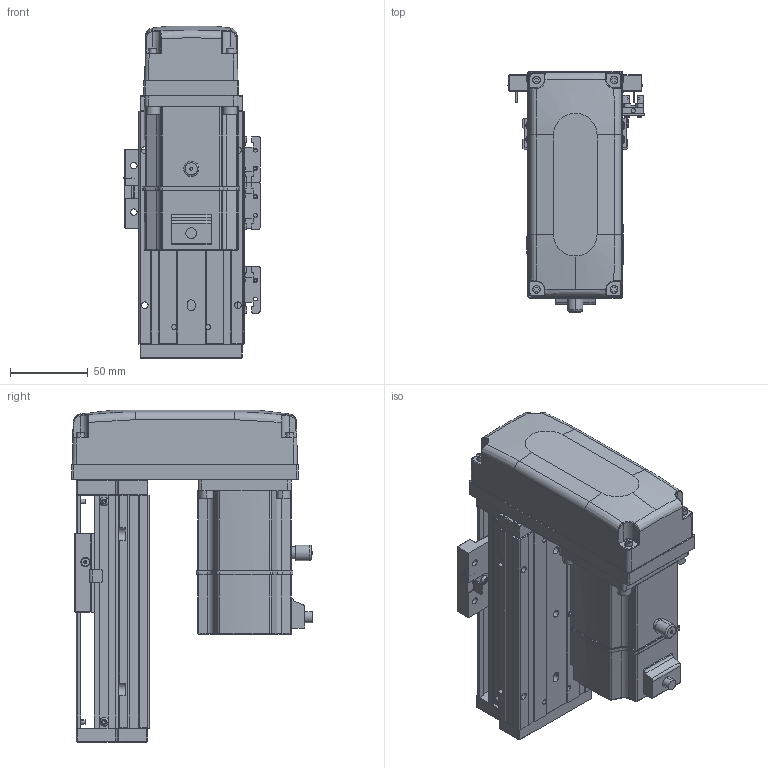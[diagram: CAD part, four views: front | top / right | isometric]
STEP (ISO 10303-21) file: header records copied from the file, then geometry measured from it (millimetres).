
FILE_DESCRIPTION (( 'STEP AP203' ), '1' );
FILE_NAME ('KTHA60-50-BM-M20-C4L.step', '2022-12-16T01:35:36', ( '微软用户' ), ( '微软中国' ), 'SwSTEP 2.0', 'SolidWorks 2020', '' );
FILE_SCHEMA (( 'CONFIG_CONTROL_DESIGN' ));
Length unit declared in the file: millimetre
Products named in the file (17): CTHA60-017; BTH80-026; KTHA60-001_150; CTHA60-021; CTHA60-006-2_CTHA60-006-2; KTHA60-004; GBT 70.1-M4×16; _X2_4E0983F1_X0_200W_1; KTHA60-005; GBT77-2000M3-3; KTHA60-50-BM-M20-C4L; GB¨uT 70.2-M3¡Á5_M3¡Á6; GBT 70.1-M3℅6; GBT 70.3-M3℅6; CTHA60-016; EE_SX911P_R; KTHA60-002
Assembly tree (51 placements, depth 2):
  KTHA60-50-BM-M20-C4L
    KTHA60-001_150
    KTHA60-004
    KTHA60-005
    GB¨uT 70.2-M3¡Á5_M3¡Á6  x6
    GBT 70.3-M3℅6  x4
    EE_SX911P_R  x3
    CTHA60-017  x3
    CTHA60-021  x2
    GBT 70.1-M4×16  x8
    GBT77-2000M3-3  x6
    GBT 70.1-M3℅6  x10
    CTHA60-016  x2
    KTHA60-002
    BTH80-026
    CTHA60-006-2_CTHA60-006-2
    _X2_4E0983F1_X0_200W_1
Bounding box: 87.72 x 155.2 x 214 mm (x, y, z)
Volume: 796756.3 mm3; surface area: 209309.9 mm2
Topology: 54 solids, 54 shells, 2348 faces, 5549 edges, 3406 vertices
Faces by surface type: plane 1237, cylinder 620, cone 274, bspline 109, torus 92, sphere 16
Entity records: 42302 total; most frequent: CARTESIAN_POINT 10034, DIRECTION 6148, ORIENTED_EDGE 6146, EDGE_CURVE 3073, AXIS2_PLACEMENT_3D 2139, VERTEX_POINT 1915, VECTOR 1870, LINE 1870
